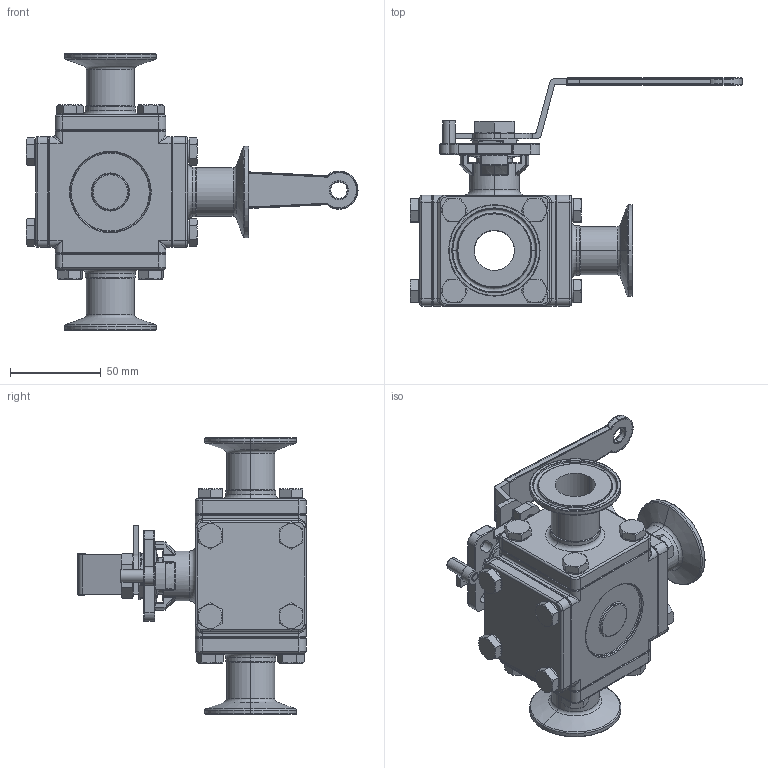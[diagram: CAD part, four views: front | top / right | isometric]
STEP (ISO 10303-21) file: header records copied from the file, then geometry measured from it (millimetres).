
FILE_DESCRIPTION (( 'STEP AP203' ), '1' );
FILE_NAME ('EG93CCC-61.0-T.STEP', '2019-07-02T02:25:44', ( '' ), ( '' ), 'SwSTEP 2.0', 'SolidWorks 2014', '' );
FILE_SCHEMA (( 'CONFIG_CONTROL_DESIGN' ));
Length unit declared in the file: millimetre
Products named in the file (23): 12.3WAY-NUT1.0; 17.LOCKING TAB1.0; 6.THRUST WASHER1.0; 19.3WAY-CAP1.0; 8.STEM PACKING1.0; 1.3WAY-BODY1.0; 11.STOP PIN0.5-1.0; 16.BOLT1.0; 13.STEM1.0; 20.SEAT BACK1.0; 3.3WAY-BALL-1.0-T; 4.SEAT1-1.0; 7.O-RING0.5-1.0; 10.BEVEL WASHER1.0; 22.SEAT-R-1.0; 14.HANDLE1.0; 9.RING1.0; 5.GASKET1.0; 18.THINNER NUT1.0; 22.SEAT-L-1.0; 2.3WAY-CAP-C-1.0; 15.SPRING WASHER1.0; EG93CCC-61.0-T
Assembly tree (57 placements, depth 2):
  EG93CCC-61.0-T
    1.3WAY-BODY1.0
    9.RING1.0
    11.STOP PIN0.5-1.0
    13.STEM1.0
    6.THRUST WASHER1.0
    7.O-RING0.5-1.0
    8.STEM PACKING1.0
    10.BEVEL WASHER1.0  x2
    17.LOCKING TAB1.0
    18.THINNER NUT1.0
    22.SEAT-L-1.0
    22.SEAT-R-1.0
    4.SEAT1-1.0  x2
    20.SEAT BACK1.0
    5.GASKET1.0  x2
    19.3WAY-CAP1.0
    2.3WAY-CAP-C-1.0  x3
    15.SPRING WASHER1.0  x16
    16.BOLT1.0  x16
    14.HANDLE1.0
    12.3WAY-NUT1.0
    3.3WAY-BALL-1.0-T
Bounding box: 183 x 125.69 x 152.4 mm (x, y, z)
Volume: 439964.4 mm3; surface area: 189067.5 mm2
Topology: 58 solids, 58 shells, 1564 faces, 3513 edges, 2062 vertices
Faces by surface type: cylinder 566, plane 401, cone 252, torus 238, sphere 57, bspline 50
Entity records: 35061 total; most frequent: CARTESIAN_POINT 8290, DIRECTION 5403, ORIENTED_EDGE 4618, EDGE_CURVE 2309, AXIS2_PLACEMENT_3D 2297, VERTEX_POINT 1364, CIRCLE 1272, EDGE_LOOP 1123
